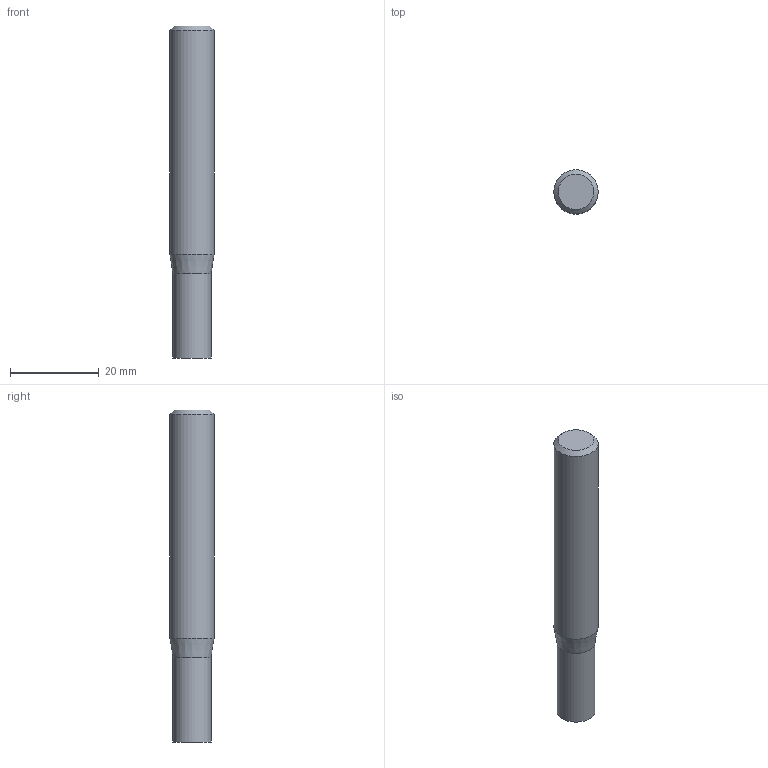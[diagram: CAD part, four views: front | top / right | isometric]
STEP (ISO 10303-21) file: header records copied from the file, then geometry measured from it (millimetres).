
FILE_DESCRIPTION((''),'2;1');
FILE_NAME('C:\Users\nsx150\AppData\Local\Temp\Mastercam 2021\98T1Q6BTT1\TEMP.step','2021-10-21T14:49:42',(''),(''),'STEP Write','Mastercam 2021 ... CNC Software, Inc.','');
FILE_SCHEMA(('AUTOMOTIVE_DESIGN'));
Length unit declared in the file: millimetre
Products named in the file (1): None
Bounding box: 10 x 10 x 75 mm (x, y, z)
Volume: 5440.9 mm3; surface area: 2497.6 mm2
Topology: 2 solids, 2 shells, 8 faces, 10 edges, 6 vertices
Faces by surface type: plane 4, cylinder 2, cone 2
Full cylindrical faces by diameter (mm): 8.6 x1, 10 x1
Entity records: 190 total; most frequent: DIRECTION 32, CARTESIAN_POINT 22, AXIS2_PLACEMENT_3D 16, ORIENTED_EDGE 12, EDGE_LOOP 12, STYLED_ITEM 11, ADVANCED_FACE 8, VERTEX_POINT 6
